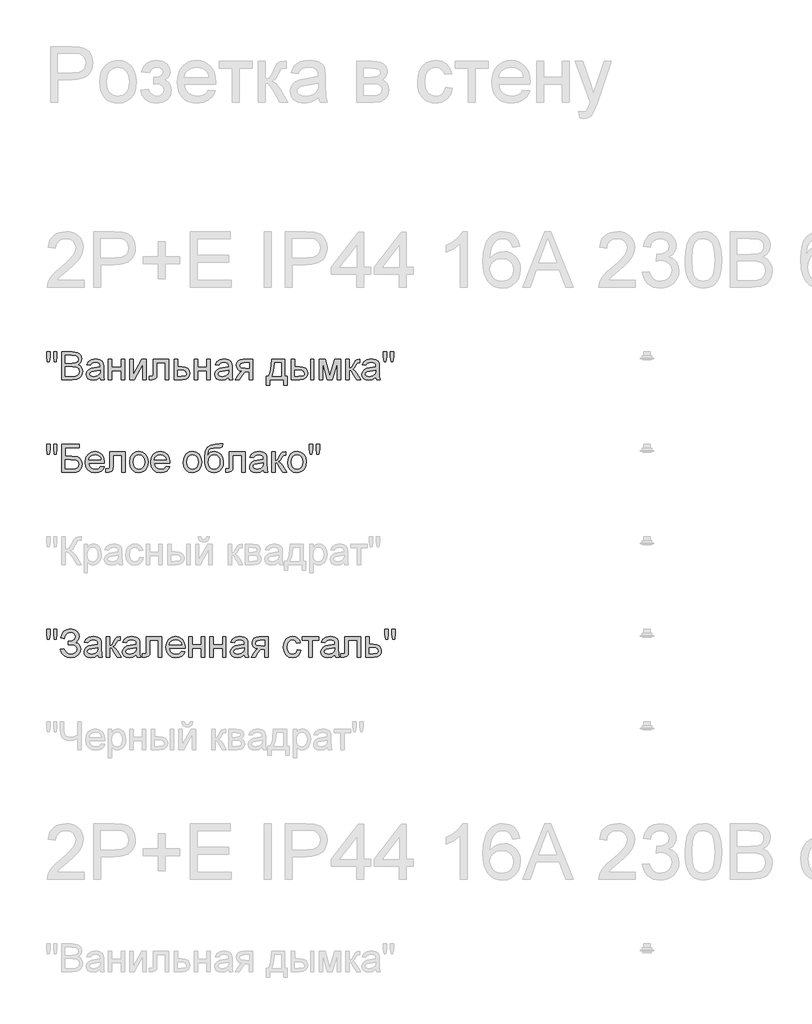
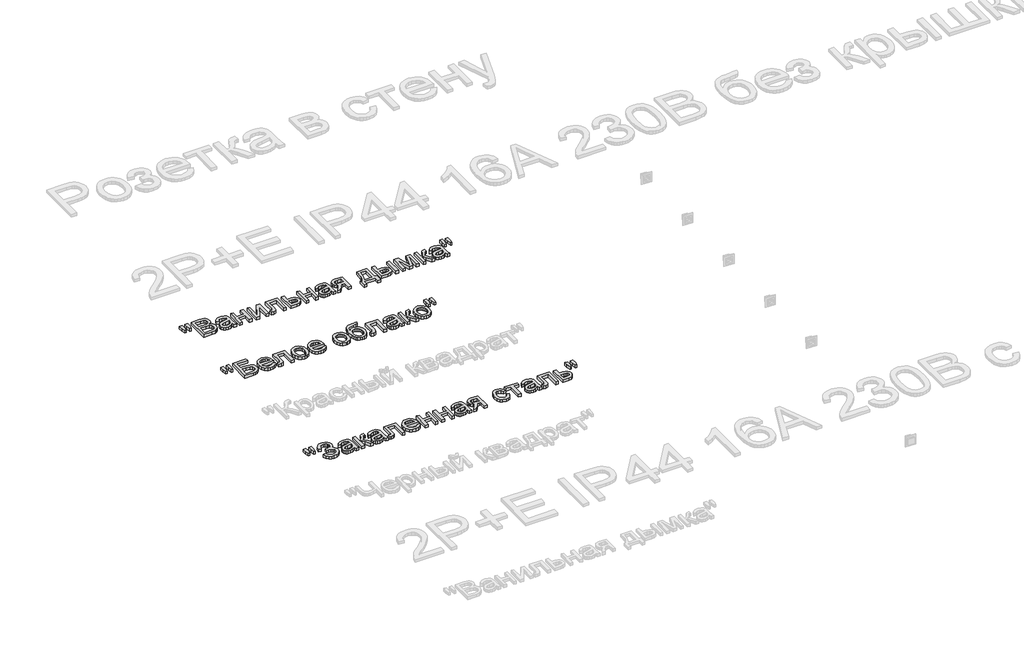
# One storey, part 162 of 168: 3 proxies.
"""IFC4 building model written with IfcOpenShell, lengths in millimetres."""

from ifc_helpers import new_model, si_unit, origin, origin_with_axes, place, context, project, spatial, polyline, outline, extrude, element, save

model = new_model("IFC4")

# Units and contexts
model_context = context("Model", 3, world=origin())
ifc_project = project(units=[si_unit("LENGTHUNIT", "METRE", prefix="MILLI")], contexts=[model_context])

# Site, building, storey
site = spatial("IfcSite", under=ifc_project)
building = spatial("IfcBuilding", under=site)
storey = spatial("IfcBuildingStorey", under=building, Name="Этаж 01", Elevation=0.0)

# Proxies
placement = place(None, origin())
element("IfcBuildingElementProxy", 1, Name="150", ObjectType="150", at=placement, inside=storey, context=model_context, shape_type="SweptSolid", body=[
    extrude(outline(polyline([(63580.1485789, -6451.873446), (63575.550054, -6422.7739802), (63575.550054, -6397.7212163), (63594.3856121, -6397.7212163), (63594.3856121, -6422.7739802), (63590.2653338, -6451.873446), (63580.1485789, -6451.873446)])), origin_with_axes(), (0.0, 0.0, 1.0), 20.0),
    extrude(outline(polyline([(63617.7093306, -6451.873446), (63613.2211703, -6422.7739802), (63613.2211703, -6397.7212163), (63632.0567284, -6397.7212163), (63632.0567284, -6422.7739802), (63627.6421445, -6451.873446), (63617.7093306, -6451.873446)])), origin_with_axes(), (0.0, 0.0, 1.0), 20.0),
    extrude(outline(polyline([(63657.9556209, -6548.4056816), (63657.9556209, -6397.7212163), (63715.4555767, -6397.7212163), (63743.6169435, -6402.1541944), (63753.0807078, -6407.7781904), (63760.2452096, -6415.7842223), (63766.2600803, -6435.0612389), (63761.2017028, -6452.6643923), (63745.9162059, -6466.0001146), (63756.5893823, -6471.5735269), (63764.4758526, -6480.0532069), (63769.3456905, -6490.8781346), (63770.9689698, -6503.48729), (63766.5359918, -6523.7391938), (63755.5547142, -6538.160168), (63739.1655713, -6545.8121135), (63715.0141183, -6548.4056816), (63657.9556209, -6548.4056816)]), holes=[polyline([(63676.791179, -6458.9367803), (63711.1881456, -6458.9367803), (63731.2745025, -6457.3180996), (63743.3594261, -6450.3467358), (63747.4245221, -6438.0778712), (63743.6353376, -6425.7906126), (63732.7828187, -6418.5249432), (63708.5761834, -6416.5567745), (63676.791179, -6416.5567745), (63676.791179, -6458.9367803)]), polyline([(63676.791179, -6529.5701234), (63715.4187885, -6529.5701234), (63729.3983043, -6528.8343594), (63741.2257105, -6524.7324752), (63749.061597, -6516.3631598), (63752.1334117, -6503.671231), (63748.5281681, -6489.0295275), (63736.8479148, -6480.2923302), (63713.5793786, -6477.7723385), (63676.791179, -6477.7723385), (63676.791179, -6529.5701234)])]), origin_with_axes(), (0.0, 0.0, 1.0), 20.0),
    extrude(outline(polyline([(63865.1467606, -6534.279013), (63846.8814195, -6547.0445182), (63826.7030921, -6550.7601263), (63810.9623412, -6548.5252432), (63799.3510657, -6541.8205939), (63792.1911624, -6531.6394596), (63789.804528, -6518.975122), (63793.4097715, -6504.0759012), (63802.8827329, -6493.2601705), (63816.0713024, -6487.079753), (63832.3684748, -6484.2470616), (63865.036396, -6477.7723385), (63865.1467606, -6473.5784838), (63863.8499765, -6465.1723802), (63859.9596244, -6459.6725443), (63851.2592153, -6455.5890542), (63839.1375035, -6454.2278908), (63820.0812162, -6457.8515285), (63810.9945309, -6470.7090042), (63792.1589727, -6468.3545594), (63800.3075589, -6449.9604597), (63816.7150959, -6439.1815172), (63841.5655247, -6435.3923327), (63864.3926025, -6438.7400588), (63877.2868664, -6447.1461624), (63883.0626137, -6459.9300617), (63883.9823187, -6476.4111751), (63883.9823187, -6499.8452582), (63884.9388119, -6532.5683617), (63888.6912083, -6548.4056816), (63869.8556501, -6548.4056816), (63865.1467606, -6534.279013)]), holes=[polyline([(63865.1467606, -6496.6078966), (63834.7597078, -6502.383644), (63818.5545059, -6505.4370645), (63811.2152601, -6510.4034715), (63808.6400861, -6517.6507468), (63814.2502865, -6527.841078), (63830.7130058, -6531.9245682), (63849.7692932, -6527.4180137), (63862.0565518, -6516.5103126), (63865.036396, -6501.9421856), (63865.1467606, -6496.6078966)])]), origin_with_axes(), (0.0, 0.0, 1.0), 20.0),
    extrude(outline(polyline([(63909.8812112, -6437.7467774), (63928.7167693, -6437.7467774), (63928.7167693, -6480.1267833), (63978.1601095, -6480.1267833), (63978.1601095, -6437.7467774), (63996.9956676, -6437.7467774), (63996.9956676, -6548.4056816), (63978.1601095, -6548.4056816), (63978.1601095, -6498.9623414), (63928.7167693, -6498.9623414), (63928.7167693, -6548.4056816), (63909.8812112, -6548.4056816), (63909.8812112, -6437.7467774)])), origin_with_axes(), (0.0, 0.0, 1.0), 20.0),
    extrude(outline(polyline([(64025.2490049, -6437.7467774), (64044.084563, -6437.7467774), (64044.084563, -6522.1389071), (64090.364118, -6437.7467774), (64114.7179061, -6437.7467774), (64114.7179061, -6548.4056816), (64095.8823479, -6548.4056816), (64095.8823479, -6464.5285867), (64049.8970985, -6548.4056816), (64025.2490049, -6548.4056816), (64025.2490049, -6437.7467774)])), origin_with_axes(), (0.0, 0.0, 1.0), 20.0),
    extrude(outline(polyline([(64152.3890224, -6437.7467774), (64237.1490341, -6437.7467774), (64237.1490341, -6548.295317), (64218.3134759, -6548.295317), (64218.3134759, -6456.5823356), (64171.2245806, -6456.5823356), (64171.2245806, -6509.3734019), (64169.9553877, -6533.72719), (64162.9840239, -6544.0094917), (64146.5029105, -6548.4056816), (64131.1990195, -6547.4491884), (64131.1990195, -6529.5701234), (64139.6235172, -6529.5701234), (64148.1399854, -6528.4112951), (64151.5428938, -6524.7324752), (64152.3890224, -6508.3065441), (64152.3890224, -6437.7467774)])), origin_with_axes(), (0.0, 0.0, 1.0), 20.0),
    extrude(outline(polyline([(64265.4023713, -6437.7467774), (64284.2379295, -6437.7467774), (64284.2379295, -6477.7723385), (64305.9429672, -6477.7723385), (64324.7601312, -6480.1313818), (64338.6844648, -6487.2085117), (64347.2929034, -6498.433511), (64350.162383, -6513.2361628), (64347.7205663, -6526.7144394), (64340.395116, -6538.0865916), (64327.6985887, -6545.8259091), (64309.1435405, -6548.4056816), (64265.4023713, -6548.4056816), (64265.4023713, -6437.7467774)]), holes=[polyline([(64284.2379295, -6529.5701234), (64301.8226888, -6529.5701234), (64324.539402, -6525.615392), (64329.6299692, -6520.552416), (64331.3268249, -6513.272951), (64326.3052356, -6501.6846682), (64318.2348244, -6497.8770895), (64304.066769, -6496.6078966), (64284.2379295, -6496.6078966), (64284.2379295, -6529.5701234)])]), origin_with_axes(), (0.0, 0.0, 1.0), 20.0),
    extrude(outline(polyline([(64373.7068307, -6437.7467774), (64392.5423889, -6437.7467774), (64392.5423889, -6480.1267833), (64441.985729, -6480.1267833), (64441.985729, -6437.7467774), (64460.8212872, -6437.7467774), (64460.8212872, -6548.4056816), (64441.985729, -6548.4056816), (64441.985729, -6498.9623414), (64392.5423889, -6498.9623414), (64392.5423889, -6548.4056816), (64373.7068307, -6548.4056816), (64373.7068307, -6437.7467774)])), origin_with_axes(), (0.0, 0.0, 1.0), 20.0),
    extrude(outline(polyline([(64559.7079675, -6534.279013), (64541.4426264, -6547.0445182), (64521.264299, -6550.7601263), (64505.5235481, -6548.5252432), (64493.9122726, -6541.8205939), (64486.7523693, -6531.6394596), (64484.3657349, -6518.975122), (64487.9709784, -6504.0759012), (64497.4439398, -6493.2601705), (64510.6325093, -6487.079753), (64526.9296817, -6484.2470616), (64559.5976029, -6477.7723385), (64559.7079675, -6473.5784838), (64558.4111834, -6465.1723802), (64554.5208313, -6459.6725443), (64545.8204221, -6455.5890542), (64533.6987104, -6454.2278908), (64514.6424231, -6457.8515285), (64505.5557378, -6470.7090042), (64486.7201796, -6468.3545594), (64494.8687658, -6449.9604597), (64511.2763028, -6439.1815172), (64536.1267316, -6435.3923327), (64558.9538094, -6438.7400588), (64571.8480733, -6447.1461624), (64577.6238206, -6459.9300617), (64578.5435256, -6476.4111751), (64578.5435256, -6499.8452582), (64579.5000188, -6532.5683617), (64583.2524152, -6548.4056816), (64564.416857, -6548.4056816), (64559.7079675, -6534.279013)]), holes=[polyline([(64559.7079675, -6496.6078966), (64529.3209147, -6502.383644), (64513.1157128, -6505.4370645), (64505.776467, -6510.4034715), (64503.201293, -6517.6507468), (64508.8114934, -6527.841078), (64525.2742127, -6531.9245682), (64544.3305001, -6527.4180137), (64556.6177587, -6516.5103126), (64559.5976029, -6501.9421856), (64559.7079675, -6496.6078966)])]), origin_with_axes(), (0.0, 0.0, 1.0), 20.0),
    extrude(outline(polyline([(64689.2024298, -6437.7467774), (64689.2024298, -6548.4056816), (64670.3668716, -6548.4056816), (64670.3668716, -6506.0256757), (64660.1029639, -6506.0256757), (64646.1234481, -6508.4169087), (64632.9900609, -6524.4933519), (64617.9804755, -6548.4056816), (64596.2018614, -6548.4056816), (64615.1109959, -6518.1657816), (64623.4619172, -6507.3132627), (64631.1506509, -6502.4940086), (64618.2747811, -6498.5484742), (64609.224884, -6491.0528785), (64603.872201, -6481.0832765), (64602.0879733, -6469.7157228), (64604.5251915, -6456.8214589), (64611.8368462, -6446.6127335), (64623.7654199, -6439.9632664), (64640.0533952, -6437.7467774), (64689.2024298, -6437.7467774)]), holes=[polyline([(64670.3668716, -6456.5823356), (64645.5348369, -6456.5823356), (64632.7095509, -6457.672186), (64625.4300859, -6460.9417372), (64620.9235315, -6471.1504626), (64622.583599, -6478.32876), (64627.5638015, -6483.3089625), (64651.0898551, -6487.1901176), (64670.3668716, -6487.1901176), (64670.3668716, -6456.5823356)])]), origin_with_axes(), (0.0, 0.0, 1.0), 20.0),
    extrude(outline(polyline([(64792.7979996, -6437.7467774), (64863.4313427, -6437.7467774), (64863.4313427, -6529.5701234), (64877.5580113, -6529.5701234), (64877.5580113, -6579.0134636), (64858.7224531, -6579.0134636), (64858.7224531, -6548.4056816), (64781.0257758, -6548.4056816), (64781.0257758, -6579.0134636), (64762.1902176, -6579.0134636), (64762.1902176, -6529.5701234), (64773.9624415, -6529.5701234), (64782.5202964, -6514.105284), (64788.5121744, -6493.6464466), (64792.7979996, -6437.7467774)]), holes=[polyline([(64809.279113, -6456.5823356), (64804.864529, -6499.4957703), (64795.1524444, -6529.5701234), (64844.5957845, -6529.5701234), (64844.5957845, -6456.5823356), (64809.279113, -6456.5823356)])]), origin_with_axes(), (0.0, 0.0, 1.0), 20.0),
    extrude(outline(polyline([(65002.3435841, -6437.7467774), (65021.1791422, -6437.7467774), (65021.1791422, -6548.4056816), (65002.3435841, -6548.4056816), (65002.3435841, -6437.7467774)])), origin_with_axes(), (0.0, 0.0, 1.0), 20.0),
    extrude(outline(polyline([(64898.7480142, -6437.7467774), (64917.5835724, -6437.7467774), (64917.5835724, -6477.7723385), (64940.8705027, -6477.7723385), (64960.9982463, -6480.1313818), (64975.9112627, -6487.2085117), (64985.1405023, -6498.433511), (64988.2169154, -6513.2361628), (64985.637143, -6526.7144394), (64977.8978255, -6538.0865916), (64964.4931253, -6545.8259091), (64944.9172046, -6548.4056816), (64898.7480142, -6548.4056816), (64898.7480142, -6437.7467774)]), holes=[polyline([(64917.5835724, -6529.5701234), (64936.9341653, -6529.5701234), (64961.9133528, -6525.615392), (64967.5143562, -6520.552416), (64969.3813573, -6513.272951), (64963.8447333, -6501.6846682), (64954.9649816, -6497.8770895), (64939.3989747, -6496.6078966), (64917.5835724, -6496.6078966), (64917.5835724, -6529.5701234)])]), origin_with_axes(), (0.0, 0.0, 1.0), 20.0),
    extrude(outline(polyline([(65049.4324794, -6437.7467774), (65081.8428832, -6437.7467774), (65106.8220707, -6526.3327619), (65133.7510327, -6437.7467774), (65164.8002731, -6437.7467774), (65164.8002731, -6548.4056816), (65145.964715, -6548.4056816), (65145.964715, -6459.3046623), (65118.8886001, -6548.4056816), (65094.1669301, -6548.4056816), (65068.2680376, -6455.0372312), (65068.2680376, -6548.4056816), (65049.4324794, -6548.4056816), (65049.4324794, -6437.7467774)])), origin_with_axes(), (0.0, 0.0, 1.0), 20.0),
    extrude(outline(polyline([(65193.0536104, -6437.7467774), (65211.8891685, -6437.7467774), (65211.8891685, -6484.8356728), (65224.5075209, -6481.4511584), (65234.845005, -6461.7326835), (65243.4350496, -6444.7181412), (65251.0134187, -6439.1815172), (65264.7905994, -6437.7467774), (65268.395843, -6437.7467774), (65268.395843, -6456.6927002), (65263.3190714, -6456.5823356), (65254.1220216, -6458.5688983), (65247.6472984, -6470.9665216), (65240.0505352, -6484.3758203), (65229.4003515, -6490.9425139), (65241.2829399, -6498.2725627), (65252.9447992, -6513.7144094), (65273.1047325, -6548.4056816), (65251.6940004, -6548.4056816), (65231.9387373, -6514.4501734), (65222.0059234, -6500.0843815), (65211.8891685, -6496.6078966), (65211.8891685, -6548.4056816), (65193.0536104, -6548.4056816), (65193.0536104, -6437.7467774)])), origin_with_axes(), (0.0, 0.0, 1.0), 20.0),
    extrude(outline(polyline([(65355.5102994, -6534.279013), (65337.2449584, -6547.0445182), (65317.0666309, -6550.7601263), (65301.3258801, -6548.5252432), (65289.7146046, -6541.8205939), (65282.5547013, -6531.6394596), (65280.1680668, -6518.975122), (65283.7733104, -6504.0759012), (65293.2462717, -6493.2601705), (65306.4348413, -6487.079753), (65322.7320137, -6484.2470616), (65355.3999348, -6477.7723385), (65355.5102994, -6473.5784838), (65354.2135154, -6465.1723802), (65350.3231633, -6459.6725443), (65341.6227541, -6455.5890542), (65329.5010424, -6454.2278908), (65310.444755, -6457.8515285), (65301.3580697, -6470.7090042), (65282.5225116, -6468.3545594), (65290.6710978, -6449.9604597), (65307.0786348, -6439.1815172), (65331.9290635, -6435.3923327), (65354.7561413, -6438.7400588), (65367.6504053, -6447.1461624), (65373.4261526, -6459.9300617), (65374.3458576, -6476.4111751), (65374.3458576, -6499.8452582), (65375.3023508, -6532.5683617), (65379.0547471, -6548.4056816), (65360.219189, -6548.4056816), (65355.5102994, -6534.279013)]), holes=[polyline([(65355.5102994, -6496.6078966), (65325.1232466, -6502.383644), (65308.9180447, -6505.4370645), (65301.5787989, -6510.4034715), (65299.003625, -6517.6507468), (65304.6138254, -6527.841078), (65321.0765447, -6531.9245682), (65340.132832, -6527.4180137), (65352.4200907, -6516.5103126), (65355.3999348, -6501.9421856), (65355.5102994, -6496.6078966)])]), origin_with_axes(), (0.0, 0.0, 1.0), 20.0),
    extrude(outline(polyline([(65400.1343854, -6451.873446), (65395.5358605, -6422.7739802), (65395.5358605, -6397.7212163), (65414.3714187, -6397.7212163), (65414.3714187, -6422.7739802), (65410.2511403, -6451.873446), (65400.1343854, -6451.873446)])), origin_with_axes(), (0.0, 0.0, 1.0), 20.0),
    extrude(outline(polyline([(65437.6951372, -6451.873446), (65433.2069768, -6422.7739802), (65433.2069768, -6397.7212163), (65452.042535, -6397.7212163), (65452.042535, -6422.7739802), (65447.627951, -6451.873446), (65437.6951372, -6451.873446)])), origin_with_axes(), (0.0, 0.0, 1.0), 20.0),
])
element("IfcBuildingElementProxy", 2, Name="150", ObjectType="150", at=placement, inside=storey, context=model_context, shape_type="SweptSolid", body=[
    extrude(outline(polyline([(63580.1485789, -6951.873446), (63575.550054, -6922.7739802), (63575.550054, -6897.7212163), (63594.3856121, -6897.7212163), (63594.3856121, -6922.7739802), (63590.2653338, -6951.873446), (63580.1485789, -6951.873446)])), origin_with_axes(), (0.0, 0.0, 1.0), 20.0),
    extrude(outline(polyline([(63617.7093306, -6951.873446), (63613.2211703, -6922.7739802), (63613.2211703, -6897.7212163), (63632.0567284, -6897.7212163), (63632.0567284, -6922.7739802), (63627.6421445, -6951.873446), (63617.7093306, -6951.873446)])), origin_with_axes(), (0.0, 0.0, 1.0), 20.0),
    extrude(outline(polyline([(63657.9556209, -6897.7212163), (63752.1334117, -6897.7212163), (63752.1334117, -6916.5567745), (63676.791179, -6916.5567745), (63676.791179, -6961.2912251), (63712.0710624, -6961.2912251), (63743.157091, -6965.1171979), (63753.5589544, -6970.6446248), (63761.6615553, -6979.5749603), (63766.8762826, -6991.0712726), (63768.614525, -7004.2966303), (63763.6665122, -7025.7625448), (63748.8960501, -7042.0781113), (63735.6247071, -7046.823789), (63715.4555767, -7048.4056816), (63657.9556209, -7048.4056816), (63657.9556209, -6897.7212163)]), holes=[polyline([(63676.791179, -7029.5701234), (63717.1478339, -7029.5701234), (63731.4124583, -7028.015822), (63741.6119866, -7023.3529177), (63747.7372218, -7015.5814105), (63749.7789669, -7004.7013005), (63745.1068655, -6989.9492325), (63732.102237, -6982.0765578), (63703.7201411, -6980.1267833), (63676.791179, -6980.1267833), (63676.791179, -7029.5701234)])]), origin_with_axes(), (0.0, 0.0, 1.0), 20.0),
    extrude(outline(polyline([(63869.6349209, -7015.4434548), (63888.1025971, -7017.7978996), (63881.4485315, -7031.713036), (63870.8305374, -7042.1148995), (63856.4877381, -7048.5988196), (63838.6592569, -7050.7601263), (63816.5587461, -7047.0307226), (63799.5534008, -7035.8425114), (63788.710079, -7017.9220597), (63785.0956384, -6993.9959345), (63788.7468672, -6969.2650674), (63799.7005536, -6950.7698), (63816.4759726, -6939.2366995), (63837.5923991, -6935.3923327), (63858.0512366, -6939.2275025), (63874.3989927, -6950.7330118), (63885.1181544, -6969.191491), (63888.6912083, -6993.8855699), (63888.5808437, -6998.9623414), (63803.9311966, -6998.9623414), (63807.1915508, -7013.0614189), (63814.7653213, -7023.4264941), (63825.6960151, -7029.8000497), (63839.0271389, -7031.9245682), (63857.4948151, -7027.9882308), (63869.6349209, -7015.4434548)]), holes=[polyline([(63803.9311966, -6980.1267833), (63869.8556501, -6980.1267833), (63867.3080673, -6970.1755753), (63862.3140692, -6963.0570587), (63851.3327917, -6956.4351828), (63837.5188227, -6954.2278908), (63824.8222954, -6955.9891259), (63814.3238629, -6961.272831), (63807.0260039, -6969.5087892), (63803.9311966, -6980.1267833)])]), origin_with_axes(), (0.0, 0.0, 1.0), 20.0),
    extrude(outline(polyline([(63916.9445455, -6937.7467774), (64001.7045572, -6937.7467774), (64001.7045572, -7048.295317), (63982.868999, -7048.295317), (63982.868999, -6956.5823356), (63935.7801036, -6956.5823356), (63935.7801036, -7009.3734019), (63934.5109108, -7033.72719), (63927.539547, -7044.0094917), (63911.0584336, -7048.4056816), (63895.7545426, -7047.4491884), (63895.7545426, -7029.5701234), (63904.1790403, -7029.5701234), (63912.6955084, -7028.4112951), (63916.0984169, -7024.7324752), (63916.9445455, -7008.3065441), (63916.9445455, -6937.7467774)])), origin_with_axes(), (0.0, 0.0, 1.0), 20.0),
    extrude(outline(polyline([(64025.2490049, -6993.0762295), (64029.323298, -6966.3955878), (64041.5461773, -6947.6428031), (64056.6477332, -6938.4549503), (64074.7291332, -6935.3923327), (64094.516586, -6939.1217364), (64110.3217163, -6950.3099476), (64120.6821929, -6968.0740494), (64124.1356852, -6991.5311251), (64122.6089749, -7010.5598213), (64118.0288441, -7025.0451749), (64110.5286499, -7035.8930952), (64100.2417496, -7044.0094917), (64088.0234688, -7049.0724677), (64074.7291332, -7050.7601263), (64054.7025571, -7047.0445182), (64038.915821, -7035.8976937), (64028.6657089, -7017.7611114), (64025.2490049, -6993.0762295)]), holes=[polyline([(64044.084563, -6993.0394413), (64046.2642638, -7010.0861732), (64052.8033663, -7022.2308776), (64062.6442097, -7029.5011455), (64074.7291332, -7031.9245682), (64086.7588745, -7029.48735), (64096.5813237, -7022.1756953), (64103.1204262, -7009.8700426), (64105.300127, -6992.4508301), (64103.1066306, -6975.9007388), (64096.5261414, -6963.9215814), (64086.6898966, -6956.6513134), (64074.7291332, -6954.2278908), (64062.6442097, -6956.6421164), (64052.8033663, -6963.8847932), (64046.2642638, -6976.0019064), (64044.084563, -6993.0394413)])]), origin_with_axes(), (0.0, 0.0, 1.0), 20.0),
    extrude(outline(polyline([(64222.8016363, -7015.4434548), (64241.2693124, -7017.7978996), (64234.6152469, -7031.713036), (64223.9972528, -7042.1148995), (64209.6544535, -7048.5988196), (64191.8259723, -7050.7601263), (64169.7254614, -7047.0307226), (64152.7201162, -7035.8425114), (64141.8767944, -7017.9220597), (64138.2623538, -6993.9959345), (64141.9135826, -6969.2650674), (64152.867269, -6950.7698), (64169.642688, -6939.2366995), (64190.7591145, -6935.3923327), (64211.217952, -6939.2275025), (64227.5657081, -6950.7330118), (64238.2848698, -6969.191491), (64241.8579236, -6993.8855699), (64241.747559, -6998.9623414), (64157.0979119, -6998.9623414), (64160.3582661, -7013.0614189), (64167.9320367, -7023.4264941), (64178.8627305, -7029.8000497), (64192.1938543, -7031.9245682), (64210.6615304, -7027.9882308), (64222.8016363, -7015.4434548)]), holes=[polyline([(64157.0979119, -6980.1267833), (64223.0223655, -6980.1267833), (64220.4747827, -6970.1755753), (64215.4807846, -6963.0570587), (64204.499507, -6956.4351828), (64190.6855381, -6954.2278908), (64177.9890107, -6955.9891259), (64167.4905783, -6961.272831), (64160.1927192, -6969.5087892), (64157.0979119, -6980.1267833)])]), origin_with_axes(), (0.0, 0.0, 1.0), 20.0),
    extrude(outline(polyline([(64314.8457115, -6993.0762295), (64318.9200046, -6966.3955878), (64331.1428839, -6947.6428031), (64346.2444398, -6938.4549503), (64364.3258398, -6935.3923327), (64384.1132926, -6939.1217364), (64399.9184229, -6950.3099476), (64410.2788995, -6968.0740494), (64413.7323918, -6991.5311251), (64412.2056815, -7010.5598213), (64407.6255507, -7025.0451749), (64400.1253565, -7035.8930952), (64389.8384562, -7044.0094917), (64377.6201754, -7049.0724677), (64364.3258398, -7050.7601263), (64344.2992637, -7047.0445182), (64328.5125276, -7035.8976937), (64318.2624155, -7017.7611114), (64314.8457115, -6993.0762295)]), holes=[polyline([(64333.6812696, -6993.0394413), (64335.8609704, -7010.0861732), (64342.4000729, -7022.2308776), (64352.2409163, -7029.5011455), (64364.3258398, -7031.9245682), (64376.3555811, -7029.48735), (64386.1780303, -7022.1756953), (64392.7171328, -7009.8700426), (64394.8968336, -6992.4508301), (64392.7033372, -6975.9007388), (64386.122848, -6963.9215814), (64376.2866032, -6956.6513134), (64364.3258398, -6954.2278908), (64352.2409163, -6956.6421164), (64342.4000729, -6963.8847932), (64335.8609704, -6976.0019064), (64333.6812696, -6993.0394413)])]), origin_with_axes(), (0.0, 0.0, 1.0), 20.0),
    extrude(outline(polyline([(64512.6190721, -6895.3667716), (64529.1001855, -6895.3667716), (64524.2441431, -6910.0636573), (64514.6424231, -6915.3795521), (64491.576222, -6916.5567745), (64460.5085875, -6920.897782), (64453.3808738, -6926.5447707), (64448.5892108, -6934.8037215), (64444.560903, -6959.4150269), (64460.8764695, -6941.3888092), (64470.7954878, -6936.8914518), (64481.9009255, -6935.3923327), (64501.4998388, -6939.2045098), (64517.401538, -6950.6410414), (64527.9413572, -6968.5798871), (64531.4546302, -6991.8990071), (64529.7117893, -7009.8792396), (64524.4832664, -7024.3094109), (64507.9469707, -7043.8623389), (64496.6529935, -7049.0356795), (64481.9009255, -7050.7601263), (64464.9001788, -7048.5390388), (64452.1576662, -7041.8757762), (64442.7812738, -7031.7498242), (64435.8788879, -7019.1406689), (64431.6298508, -7000.1533594), (64430.2135052, -6970.8929452), (64433.786559, -6934.7531377), (64444.5057207, -6912.7124076), (64462.6377045, -6901.4690142), (64488.449225, -6897.7212163), (64509.4184987, -6897.2981521), (64512.6190721, -6895.3667716)]), holes=[polyline([(64512.6190721, -6991.3103959), (64510.577327, -6976.48935), (64504.4520918, -6964.6205572), (64494.6112484, -6956.8260574), (64481.4226789, -6954.2278908), (64467.6730893, -6956.9732102), (64457.473561, -6965.2091684), (64451.1551877, -6978.0344544), (64449.0490633, -6994.5477575), (64451.3759169, -7010.5552228), (64458.3564778, -7022.304454), (64468.7491442, -7029.5195396), (64481.3123143, -7031.9245682), (64493.9398638, -7029.1424606), (64503.937057, -7020.7961378), (64510.4485683, -7007.8604872), (64512.6190721, -6991.3103959)])]), origin_with_axes(), (0.0, 0.0, 1.0), 20.0),
    extrude(outline(polyline([(64564.416857, -6937.7467774), (64649.1768687, -6937.7467774), (64649.1768687, -7048.295317), (64630.3413105, -7048.295317), (64630.3413105, -6956.5823356), (64583.2524152, -6956.5823356), (64583.2524152, -7009.3734019), (64581.9832223, -7033.72719), (64575.0118585, -7044.0094917), (64558.5307451, -7048.4056816), (64543.2268541, -7047.4491884), (64543.2268541, -7029.5701234), (64551.6513518, -7029.5701234), (64560.16782, -7028.4112951), (64563.5707284, -7024.7324752), (64564.416857, -7008.3065441), (64564.416857, -6937.7467774)])), origin_with_axes(), (0.0, 0.0, 1.0), 20.0),
    extrude(outline(polyline([(64748.063549, -7034.279013), (64729.7982079, -7047.0445182), (64709.6198805, -7050.7601263), (64693.8791296, -7048.5252432), (64682.2678542, -7041.8205939), (64675.1079508, -7031.6394596), (64672.7213164, -7018.975122), (64676.3265599, -7004.0759012), (64685.7995213, -6993.2601705), (64698.9880908, -6987.079753), (64715.2852632, -6984.2470616), (64747.9531844, -6977.7723385), (64748.063549, -6973.5784838), (64746.766765, -6965.1723802), (64742.8764129, -6959.6725443), (64734.1760037, -6955.5890542), (64722.0542919, -6954.2278908), (64702.9980046, -6957.8515285), (64693.9113193, -6970.7090042), (64675.0757612, -6968.3545594), (64683.2243473, -6949.9604597), (64699.6318843, -6939.1815172), (64724.4823131, -6935.3923327), (64747.3093909, -6938.7400588), (64760.2036548, -6947.1461624), (64765.9794022, -6959.9300617), (64766.8991071, -6976.4111751), (64766.8991071, -6999.8452582), (64767.8556003, -7032.5683617), (64771.6079967, -7048.4056816), (64752.7724385, -7048.4056816), (64748.063549, -7034.279013)]), holes=[polyline([(64748.063549, -6996.6078966), (64717.6764962, -7002.383644), (64701.4712943, -7005.4370645), (64694.1320485, -7010.4034715), (64691.5568745, -7017.6507468), (64697.167075, -7027.841078), (64713.6297942, -7031.9245682), (64732.6860816, -7027.4180137), (64744.9733402, -7016.5103126), (64747.9531844, -7001.9421856), (64748.063549, -6996.6078966)])]), origin_with_axes(), (0.0, 0.0, 1.0), 20.0),
    extrude(outline(polyline([(64792.7979996, -6937.7467774), (64811.6335578, -6937.7467774), (64811.6335578, -6984.8356728), (64824.2519102, -6981.4511584), (64834.5893943, -6961.7326835), (64843.1794388, -6944.7181412), (64850.7578079, -6939.1815172), (64864.5349887, -6937.7467774), (64868.1402322, -6937.7467774), (64868.1402322, -6956.6927002), (64863.0634607, -6956.5823356), (64853.8664108, -6958.5688983), (64847.3916877, -6970.9665216), (64839.7949245, -6984.3758203), (64829.1447407, -6990.9425139), (64841.0273292, -6998.2725627), (64852.6891884, -7013.7144094), (64872.8491218, -7048.4056816), (64851.4383896, -7048.4056816), (64831.6831265, -7014.4501734), (64821.7503126, -7000.0843815), (64811.6335578, -6996.6078966), (64811.6335578, -7048.4056816), (64792.7979996, -7048.4056816), (64792.7979996, -6937.7467774)])), origin_with_axes(), (0.0, 0.0, 1.0), 20.0),
    extrude(outline(polyline([(64879.9124561, -6993.0762295), (64883.9867492, -6966.3955878), (64896.2096285, -6947.6428031), (64911.3111844, -6938.4549503), (64929.3925844, -6935.3923327), (64949.1800372, -6939.1217364), (64964.9851674, -6950.3099476), (64975.3456441, -6968.0740494), (64978.7991364, -6991.5311251), (64977.2724261, -7010.5598213), (64972.6922952, -7025.0451749), (64965.1921011, -7035.8930952), (64954.9052008, -7044.0094917), (64942.68692, -7049.0724677), (64929.3925844, -7050.7601263), (64909.3660083, -7047.0445182), (64893.5792722, -7035.8976937), (64883.3291601, -7017.7611114), (64879.9124561, -6993.0762295)]), holes=[polyline([(64898.7480142, -6993.0394413), (64900.927715, -7010.0861732), (64907.4668175, -7022.2308776), (64917.3076609, -7029.5011455), (64929.3925844, -7031.9245682), (64941.4223257, -7029.48735), (64951.2447749, -7022.1756953), (64957.7838774, -7009.8700426), (64959.9635782, -6992.4508301), (64957.7700818, -6975.9007388), (64951.1895926, -6963.9215814), (64941.3533478, -6956.6513134), (64929.3925844, -6954.2278908), (64917.3076609, -6956.6421164), (64907.4668175, -6963.8847932), (64900.927715, -6976.0019064), (64898.7480142, -6993.0394413)])]), origin_with_axes(), (0.0, 0.0, 1.0), 20.0),
    extrude(outline(polyline([(64999.8787747, -6951.873446), (64995.2802498, -6922.7739802), (64995.2802498, -6897.7212163), (65014.1158079, -6897.7212163), (65014.1158079, -6922.7739802), (65009.9955296, -6951.873446), (64999.8787747, -6951.873446)])), origin_with_axes(), (0.0, 0.0, 1.0), 20.0),
    extrude(outline(polyline([(65037.4395264, -6951.873446), (65032.9513661, -6922.7739802), (65032.9513661, -6897.7212163), (65051.7869242, -6897.7212163), (65051.7869242, -6922.7739802), (65047.3723403, -6951.873446), (65037.4395264, -6951.873446)])), origin_with_axes(), (0.0, 0.0, 1.0), 20.0),
])
element("IfcBuildingElementProxy", 3, Name="150", ObjectType="150", at=placement, inside=storey, context=model_context, shape_type="SweptSolid", body=[
    extrude(outline(polyline([(63580.1485789, -7951.873446), (63575.550054, -7922.7739802), (63575.550054, -7897.7212163), (63594.3856121, -7897.7212163), (63594.3856121, -7922.7739802), (63590.2653338, -7951.873446), (63580.1485789, -7951.873446)])), origin_with_axes(), (0.0, 0.0, 1.0), 20.0),
    extrude(outline(polyline([(63617.7093306, -7951.873446), (63613.2211703, -7922.7739802), (63613.2211703, -7897.7212163), (63632.0567284, -7897.7212163), (63632.0567284, -7922.7739802), (63627.6421445, -7951.873446), (63617.7093306, -7951.873446)])), origin_with_axes(), (0.0, 0.0, 1.0), 20.0),
    extrude(outline(polyline([(63650.8922866, -8006.0256757), (63669.7278447, -8001.3167862), (63681.2977335, -8021.7158428), (63692.2284273, -8029.3723868), (63706.2217387, -8031.9245682), (63720.398991, -8030.0069833), (63731.2193202, -8024.2542286), (63738.0757209, -8015.7883442), (63740.3611878, -8005.7313701), (63737.8641888, -7995.1961495), (63730.3731916, -7987.0613589), (63718.5779752, -7981.8604272), (63703.1683181, -7980.1267833), (63693.2722924, -7980.1267833), (63693.2722924, -7961.2912251), (63714.591054, -7959.7645148), (63727.6324708, -7951.9654165), (63733.2978535, -7937.7099892), (63731.4124583, -7928.8394346), (63725.7562726, -7921.2104817), (63716.8811195, -7915.9543677), (63705.3388219, -7914.2023297), (63686.1169876, -7919.591801), (63675.117316, -7933.8840165), (63672.0822895, -7947.1645565), (63653.2467313, -7942.455667), (63659.0983543, -7921.8542752), (63669.7002536, -7907.1389954), (63685.0524291, -7898.3098275), (63705.1548809, -7895.3667716), (63724.5468605, -7898.4247907), (63739.4598769, -7907.5988479), (63748.965028, -7920.8655924), (63752.1334117, -7936.201673), (63747.2037929, -7954.8440931), (63732.4149367, -7968.7592296), (63742.8903765, -7973.5830823), (63751.5080123, -7981.7270699), (63757.2745625, -7992.4922168), (63759.196746, -8005.1795471), (63755.508729, -8023.0172254), (63744.444678, -8037.6819214), (63727.2921799, -8047.4905751), (63705.3388219, -8050.7601263), (63686.2365493, -8047.9642232), (63670.7947025, -8039.5765137), (63659.0132816, -8025.5969979), (63650.8922866, -8006.0256757)])), origin_with_axes(), (0.0, 0.0, 1.0), 20.0),
    extrude(outline(polyline([(63853.3745367, -8034.279013), (63835.1091957, -8047.0445182), (63814.9308682, -8050.7601263), (63799.1901174, -8048.5252432), (63787.5788419, -8041.8205939), (63780.4189386, -8031.6394596), (63778.0323041, -8018.975122), (63781.6375477, -8004.0759012), (63791.110509, -7993.2601705), (63804.2990786, -7987.079753), (63820.596251, -7984.2470616), (63853.2641721, -7977.7723385), (63853.3745367, -7973.5784838), (63852.0777527, -7965.1723802), (63848.1874006, -7959.6725443), (63839.4869914, -7955.5890542), (63827.3652797, -7954.2278908), (63808.3089923, -7957.8515285), (63799.222307, -7970.7090042), (63780.3867489, -7968.3545594), (63788.5353351, -7949.9604597), (63804.9428721, -7939.1815172), (63829.7933008, -7935.3923327), (63852.6203786, -7938.7400588), (63865.5146426, -7947.1461624), (63871.2903899, -7959.9300617), (63872.2100949, -7976.4111751), (63872.2100949, -7999.8452582), (63873.1665881, -8032.5683617), (63876.9189844, -8048.4056816), (63858.0834263, -8048.4056816), (63853.3745367, -8034.279013)]), holes=[polyline([(63853.3745367, -7996.6078966), (63822.9874839, -8002.383644), (63806.782282, -8005.4370645), (63799.4430362, -8010.4034715), (63796.8678623, -8017.6507468), (63802.4780627, -8027.841078), (63818.940782, -8031.9245682), (63837.9970693, -8027.4180137), (63850.284328, -8016.5103126), (63853.2641721, -8001.9421856), (63853.3745367, -7996.6078966)])]), origin_with_axes(), (0.0, 0.0, 1.0), 20.0),
    extrude(outline(polyline([(63898.1089873, -7937.7467774), (63916.9445455, -7937.7467774), (63916.9445455, -7984.8356728), (63929.5628979, -7981.4511584), (63939.900382, -7961.7326835), (63948.4904266, -7944.7181412), (63956.0687957, -7939.1815172), (63969.8459764, -7937.7467774), (63973.4512199, -7937.7467774), (63973.4512199, -7956.6927002), (63968.3744484, -7956.5823356), (63959.1773985, -7958.5688983), (63952.7026754, -7970.9665216), (63945.1059122, -7984.3758203), (63934.4557285, -7990.9425139), (63946.3383169, -7998.2725627), (63958.0001762, -8013.7144094), (63978.1601095, -8048.4056816), (63956.7493774, -8048.4056816), (63936.9941142, -8014.4501734), (63927.0613004, -8000.0843815), (63916.9445455, -7996.6078966), (63916.9445455, -8048.4056816), (63898.1089873, -8048.4056816), (63898.1089873, -7937.7467774)])), origin_with_axes(), (0.0, 0.0, 1.0), 20.0),
    extrude(outline(polyline([(64060.5656764, -8034.279013), (64042.3003353, -8047.0445182), (64022.1220079, -8050.7601263), (64006.381257, -8048.5252432), (63994.7699816, -8041.8205939), (63987.6100782, -8031.6394596), (63985.2234438, -8018.975122), (63988.8286873, -8004.0759012), (63998.3016487, -7993.2601705), (64011.4902183, -7987.079753), (64027.7873906, -7984.2470616), (64060.4553118, -7977.7723385), (64060.5656764, -7973.5784838), (64059.2688924, -7965.1723802), (64055.3785403, -7959.6725443), (64046.6781311, -7955.5890542), (64034.5564193, -7954.2278908), (64015.500132, -7957.8515285), (64006.4134467, -7970.7090042), (63987.5778886, -7968.3545594), (63995.7264748, -7949.9604597), (64012.1340117, -7939.1815172), (64036.9844405, -7935.3923327), (64059.8115183, -7938.7400588), (64072.7057822, -7947.1461624), (64078.4815296, -7959.9300617), (64079.4012346, -7976.4111751), (64079.4012346, -7999.8452582), (64080.3577277, -8032.5683617), (64084.1101241, -8048.4056816), (64065.2745659, -8048.4056816), (64060.5656764, -8034.279013)]), holes=[polyline([(64060.5656764, -7996.6078966), (64030.1786236, -8002.383644), (64013.9734217, -8005.4370645), (64006.6341759, -8010.4034715), (64004.0590019, -8017.6507468), (64009.6692024, -8027.841078), (64026.1319217, -8031.9245682), (64045.188209, -8027.4180137), (64057.4754676, -8016.5103126), (64060.4553118, -8001.9421856), (64060.5656764, -7996.6078966)])]), origin_with_axes(), (0.0, 0.0, 1.0), 20.0),
    extrude(outline(polyline([(64114.7179061, -7937.7467774), (64199.4779178, -7937.7467774), (64199.4779178, -8048.295317), (64180.6423596, -8048.295317), (64180.6423596, -7956.5823356), (64133.5534643, -7956.5823356), (64133.5534643, -8009.3734019), (64132.2842714, -8033.72719), (64125.3129076, -8044.0094917), (64108.8317942, -8048.4056816), (64093.5279032, -8047.4491884), (64093.5279032, -8029.5701234), (64101.9524009, -8029.5701234), (64110.4688691, -8028.4112951), (64113.8717775, -8024.7324752), (64114.7179061, -8008.3065441), (64114.7179061, -7937.7467774)])), origin_with_axes(), (0.0, 0.0, 1.0), 20.0),
    extrude(outline(polyline([(64305.2072032, -8015.4434548), (64323.6748794, -8017.7978996), (64317.0208138, -8031.713036), (64306.4028197, -8042.1148995), (64292.0600204, -8048.5988196), (64274.2315392, -8050.7601263), (64252.1310283, -8047.0307226), (64235.1256831, -8035.8425114), (64224.2823613, -8017.9220597), (64220.6679207, -7993.9959345), (64224.3191495, -7969.2650674), (64235.2728359, -7950.7698), (64252.0482549, -7939.2366995), (64273.1646814, -7935.3923327), (64293.6235189, -7939.2275025), (64309.971275, -7950.7330118), (64320.6904367, -7969.191491), (64324.2634906, -7993.8855699), (64324.153126, -7998.9623414), (64239.5034789, -7998.9623414), (64242.763833, -8013.0614189), (64250.3376036, -8023.4264941), (64261.2682974, -8029.8000497), (64274.5994212, -8031.9245682), (64293.0670974, -8027.9882308), (64305.2072032, -8015.4434548)]), holes=[polyline([(64239.5034789, -7980.1267833), (64305.4279324, -7980.1267833), (64302.8803496, -7970.1755753), (64297.8863515, -7963.0570587), (64286.9050739, -7956.4351828), (64273.091105, -7954.2278908), (64260.3945777, -7955.9891259), (64249.8961452, -7961.272831), (64242.5982861, -7969.5087892), (64239.5034789, -7980.1267833)])]), origin_with_axes(), (0.0, 0.0, 1.0), 20.0),
    extrude(outline(polyline([(64343.0990487, -7937.7467774), (64361.9346069, -7937.7467774), (64361.9346069, -7980.1267833), (64411.377947, -7980.1267833), (64411.377947, -7937.7467774), (64430.2135052, -7937.7467774), (64430.2135052, -8048.4056816), (64411.377947, -8048.4056816), (64411.377947, -7998.9623414), (64361.9346069, -7998.9623414), (64361.9346069, -8048.4056816), (64343.0990487, -8048.4056816), (64343.0990487, -7937.7467774)])), origin_with_axes(), (0.0, 0.0, 1.0), 20.0),
    extrude(outline(polyline([(64458.4668424, -7937.7467774), (64477.3024005, -7937.7467774), (64477.3024005, -7980.1267833), (64526.7457407, -7980.1267833), (64526.7457407, -7937.7467774), (64545.5812988, -7937.7467774), (64545.5812988, -8048.4056816), (64526.7457407, -8048.4056816), (64526.7457407, -7998.9623414), (64477.3024005, -7998.9623414), (64477.3024005, -8048.4056816), (64458.4668424, -8048.4056816), (64458.4668424, -7937.7467774)])), origin_with_axes(), (0.0, 0.0, 1.0), 20.0),
    extrude(outline(polyline([(64644.4679792, -8034.279013), (64626.2026381, -8047.0445182), (64606.0243107, -8050.7601263), (64590.2835598, -8048.5252432), (64578.6722843, -8041.8205939), (64571.512381, -8031.6394596), (64569.1257465, -8018.975122), (64572.7309901, -8004.0759012), (64582.2039515, -7993.2601705), (64595.392521, -7987.079753), (64611.6896934, -7984.2470616), (64644.3576146, -7977.7723385), (64644.4679792, -7973.5784838), (64643.1711951, -7965.1723802), (64639.280843, -7959.6725443), (64630.5804338, -7955.5890542), (64618.4587221, -7954.2278908), (64599.4024347, -7957.8515285), (64590.3157495, -7970.7090042), (64571.4801913, -7968.3545594), (64579.6287775, -7949.9604597), (64596.0363145, -7939.1815172), (64620.8867433, -7935.3923327), (64643.7138211, -7938.7400588), (64656.608085, -7947.1461624), (64662.3838323, -7959.9300617), (64663.3035373, -7976.4111751), (64663.3035373, -7999.8452582), (64664.2600305, -8032.5683617), (64668.0124268, -8048.4056816), (64649.1768687, -8048.4056816), (64644.4679792, -8034.279013)]), holes=[polyline([(64644.4679792, -7996.6078966), (64614.0809264, -8002.383644), (64597.8757245, -8005.4370645), (64590.5364787, -8010.4034715), (64587.9613047, -8017.6507468), (64593.5715051, -8027.841078), (64610.0342244, -8031.9245682), (64629.0905118, -8027.4180137), (64641.3777704, -8016.5103126), (64644.3576146, -8001.9421856), (64644.4679792, -7996.6078966)])]), origin_with_axes(), (0.0, 0.0, 1.0), 20.0),
    extrude(outline(polyline([(64773.9624415, -7937.7467774), (64773.9624415, -8048.4056816), (64755.1268833, -8048.4056816), (64755.1268833, -8006.0256757), (64744.8629756, -8006.0256757), (64730.8834598, -8008.4169087), (64717.7500726, -8024.4933519), (64702.7404872, -8048.4056816), (64680.9618731, -8048.4056816), (64699.8710076, -8018.1657816), (64708.2219289, -8007.3132627), (64715.9106626, -8002.4940086), (64703.0347928, -7998.5484742), (64693.9848957, -7991.0528785), (64688.6322127, -7981.0832765), (64686.847985, -7969.7157228), (64689.2852032, -7956.8214589), (64696.5968579, -7946.6127335), (64708.5254316, -7939.9632664), (64724.8134069, -7937.7467774), (64773.9624415, -7937.7467774)]), holes=[polyline([(64755.1268833, -7956.5823356), (64730.2948486, -7956.5823356), (64717.4695626, -7957.672186), (64710.1900976, -7960.9417372), (64705.6835431, -7971.1504626), (64707.3436107, -7978.32876), (64712.3238132, -7983.3089625), (64735.8498668, -7987.1901176), (64755.1268833, -7987.1901176), (64755.1268833, -7956.5823356)])]), origin_with_axes(), (0.0, 0.0, 1.0), 20.0),
    extrude(outline(polyline([(64931.710241, -8008.3801205), (64950.5457991, -8010.7345653), (64945.2942837, -8027.4869916), (64935.4258491, -8040.1467308), (64921.8693976, -8048.1067774), (64905.5538311, -8050.7601263), (64885.518058, -8047.0583138), (64869.8508835, -8035.952876), (64859.7387272, -8017.9312568), (64856.3680084, -7993.4808997), (64857.8073467, -7976.7192763), (64862.1253616, -7962.192536), (64869.391031, -7950.4616989), (64879.6733328, -7942.087785), (64891.974387, -7937.0661957), (64905.2963137, -7935.3923327), (64921.2118085, -7937.6915951), (64933.9359271, -7944.5893825), (64943.0639991, -7955.7178129), (64948.1913544, -7970.7090042), (64929.3557962, -7973.063449), (64920.6185988, -7958.9551744), (64905.4434665, -7954.2278908), (64893.271171, -7956.5547444), (64883.6096701, -7963.5353053), (64877.3050924, -7975.5466524), (64875.2035665, -7992.9658649), (64877.2591072, -8010.6196021), (64883.4257291, -8022.672336), (64892.9124861, -8029.6115101), (64904.9284317, -8031.9245682), (64914.6819031, -8030.4806314), (64922.678738, -8026.1488209), (64928.4958721, -8018.8187721), (64931.710241, -8008.3801205)])), origin_with_axes(), (0.0, 0.0, 1.0), 20.0),
    extrude(outline(polyline([(64957.6091334, -7937.7467774), (65047.0780347, -7937.7467774), (65047.0780347, -7956.5823356), (65011.7613631, -7956.5823356), (65011.7613631, -8048.4056816), (64992.925805, -8048.4056816), (64992.925805, -7956.5823356), (64957.6091334, -7956.5823356), (64957.6091334, -7937.7467774)])), origin_with_axes(), (0.0, 0.0, 1.0), 20.0),
    extrude(outline(polyline([(65134.1924911, -8034.279013), (65115.9271501, -8047.0445182), (65095.7488226, -8050.7601263), (65080.0080718, -8048.5252432), (65068.3967963, -8041.8205939), (65061.236893, -8031.6394596), (65058.8502585, -8018.975122), (65062.4555021, -8004.0759012), (65071.9284634, -7993.2601705), (65085.117033, -7987.079753), (65101.4142054, -7984.2470616), (65134.0821265, -7977.7723385), (65134.1924911, -7973.5784838), (65132.8957071, -7965.1723802), (65129.005355, -7959.6725443), (65120.3049458, -7955.5890542), (65108.1832341, -7954.2278908), (65089.1269467, -7957.8515285), (65080.0402614, -7970.7090042), (65061.2047033, -7968.3545594), (65069.3532895, -7949.9604597), (65085.7608265, -7939.1815172), (65110.6112552, -7935.3923327), (65133.438333, -7938.7400588), (65146.332597, -7947.1461624), (65152.1083443, -7959.9300617), (65153.0280493, -7976.4111751), (65153.0280493, -7999.8452582), (65153.9845425, -8032.5683617), (65157.7369388, -8048.4056816), (65138.9013807, -8048.4056816), (65134.1924911, -8034.279013)]), holes=[polyline([(65134.1924911, -7996.6078966), (65103.8054383, -8002.383644), (65087.6002364, -8005.4370645), (65080.2609906, -8010.4034715), (65077.6858167, -8017.6507468), (65083.2960171, -8027.841078), (65099.7587364, -8031.9245682), (65118.8150237, -8027.4180137), (65131.1022824, -8016.5103126), (65134.0821265, -8001.9421856), (65134.1924911, -7996.6078966)])]), origin_with_axes(), (0.0, 0.0, 1.0), 20.0),
    extrude(outline(polyline([(65188.3447208, -7937.7467774), (65273.1047325, -7937.7467774), (65273.1047325, -8048.295317), (65254.2691744, -8048.295317), (65254.2691744, -7956.5823356), (65207.180279, -7956.5823356), (65207.180279, -8009.3734019), (65205.9110861, -8033.72719), (65198.9397223, -8044.0094917), (65182.4586089, -8048.4056816), (65167.1547179, -8047.4491884), (65167.1547179, -8029.5701234), (65175.5792156, -8029.5701234), (65184.0956838, -8028.4112951), (65187.4985922, -8024.7324752), (65188.3447208, -8008.3065441), (65188.3447208, -7937.7467774)])), origin_with_axes(), (0.0, 0.0, 1.0), 20.0),
    extrude(outline(polyline([(65301.3580697, -7937.7467774), (65320.1936279, -7937.7467774), (65320.1936279, -7977.7723385), (65341.8986656, -7977.7723385), (65360.7158297, -7980.1313818), (65374.6401632, -7987.2085117), (65383.2486019, -7998.433511), (65386.1180814, -8013.2361628), (65383.6762647, -8026.7144394), (65376.3508145, -8038.0865916), (65363.6542871, -8045.8259091), (65345.099239, -8048.4056816), (65301.3580697, -8048.4056816), (65301.3580697, -7937.7467774)]), holes=[polyline([(65320.1936279, -8029.5701234), (65337.7783873, -8029.5701234), (65360.4951005, -8025.615392), (65365.5856676, -8020.552416), (65367.2825233, -8013.272951), (65362.260934, -8001.6846682), (65354.1905228, -7997.8770895), (65340.0224674, -7996.6078966), (65320.1936279, -7996.6078966), (65320.1936279, -8029.5701234)])]), origin_with_axes(), (0.0, 0.0, 1.0), 20.0),
    extrude(outline(polyline([(65409.5521645, -7951.873446), (65404.9536396, -7922.7739802), (65404.9536396, -7897.7212163), (65423.7891977, -7897.7212163), (65423.7891977, -7922.7739802), (65419.6689194, -7951.873446), (65409.5521645, -7951.873446)])), origin_with_axes(), (0.0, 0.0, 1.0), 20.0),
    extrude(outline(polyline([(65447.1129162, -7951.873446), (65442.6247559, -7922.7739802), (65442.6247559, -7897.7212163), (65461.460314, -7897.7212163), (65461.460314, -7922.7739802), (65457.0457301, -7951.873446), (65447.1129162, -7951.873446)])), origin_with_axes(), (0.0, 0.0, 1.0), 20.0),
])

save(model, "model.ifc")
